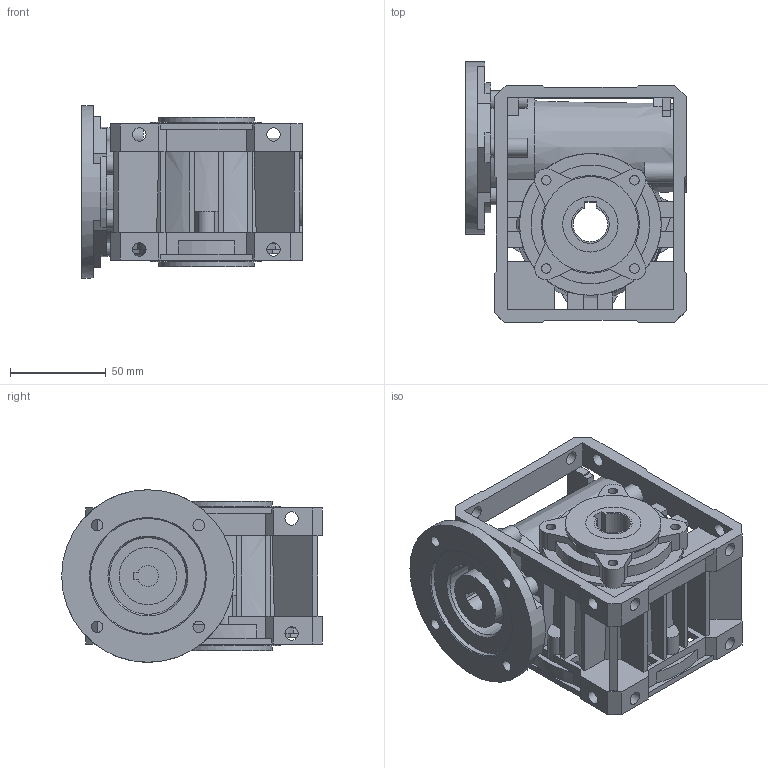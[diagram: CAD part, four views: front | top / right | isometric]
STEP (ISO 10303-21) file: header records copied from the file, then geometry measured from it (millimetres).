
FILE_DESCRIPTION (( 'STEP AP203' ), '1' );
FILE_NAME ('MU 40 PAM 63 B14.STEP', '2016-03-10T08:18:31', ( 'm.piscopiello' ), ( '' ), 'SwSTEP 2.0', 'SolidWorks 2015', '' );
FILE_SCHEMA (( 'CONFIG_CONTROL_DESIGN' ));
Length unit declared in the file: millimetre
Products named in the file (1): MU 40 PAM 63 B14
Bounding box: 115 x 136 x 90 mm (x, y, z)
Volume: 597475.4 mm3; surface area: 115195.4 mm2
Topology: 1 solids, 7 shells, 535 faces, 1558 edges, 1022 vertices
Faces by surface type: plane 372, cylinder 138, cone 23, bspline 2
Full cylindrical faces by diameter (mm): 4.134 x6, 4.917 x8, 6 x4, 7 x16, 30 x1, 40 x1, 50 x2, 60 x1, 90 x1
Entity records: 18114 total; most frequent: CARTESIAN_POINT 3849, ORIENTED_EDGE 3018, DIRECTION 2880, EDGE_CURVE 1509, VERTEX_POINT 1015, AXIS2_PLACEMENT_3D 977, VECTOR 926, LINE 926
